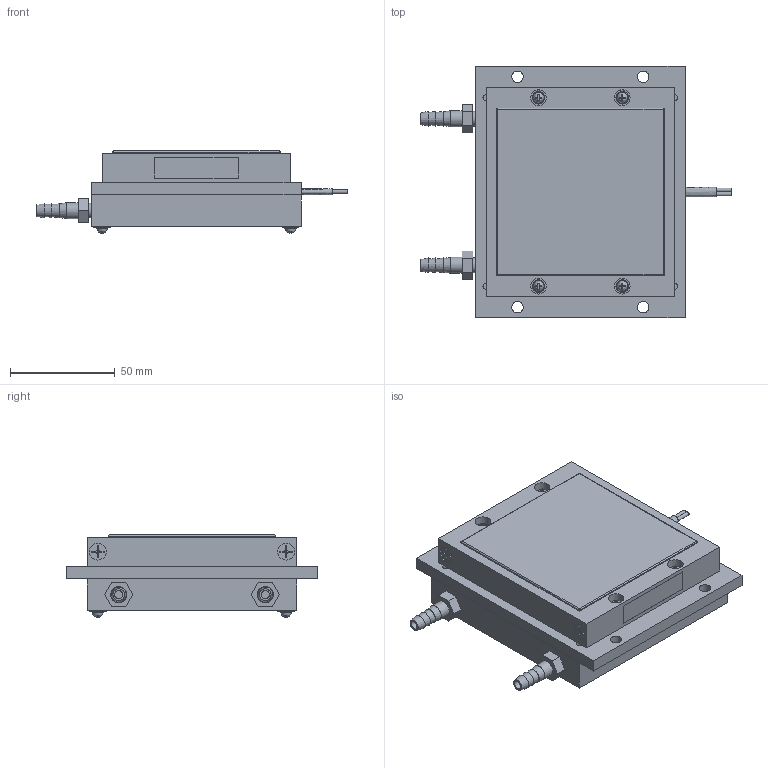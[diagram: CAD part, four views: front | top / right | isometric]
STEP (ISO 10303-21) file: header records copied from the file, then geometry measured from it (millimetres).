
FILE_DESCRIPTION(('STEP AP214'),'1');
FILE_NAME('HMC-12W-0100.stp','2026-03-16T23:42:06',(' '),(' '),'Spatial InterOp 3D',' ',' ');
FILE_SCHEMA(('AUTOMOTIVE_DESIGN { 1 0 10303 214 1 1 1 1 }'));
Length unit declared in the file: metre
Products named in the file (13): HMC-12W-0100; 水路板; ベース板; 樹脂枠; 冷却板; ホースニップル; 皿ネジ; ペルチェリード線; ネジ; 隙間うめ; M3ネジ; M3ネジ(脚); 製造番号シール_10×40(12W-0100)
Assembly tree (12 placements, depth 2):
  HMC-12W-0100
    水路板
    ベース板
    樹脂枠
    冷却板
    ホースニップル
    皿ネジ
    ペルチェリード線
    ネジ
    隙間うめ
    M3ネジ
    M3ネジ(脚)
    製造番号シール_10×40(12W-0100)
Bounding box: 148.85 x 120 x 39.2 mm (x, y, z)
Volume: 353936.7 mm3; surface area: 99384.7 mm2
Topology: 32 solids, 34 shells, 533 faces, 1423 edges, 825 vertices
Faces by surface type: plane 417, cylinder 95, bspline 12, cone 8, extrusion 1
Full cylindrical faces by diameter (mm): 1.8 x2, 1.85 x2, 3 x8, 3.5 x4, 3.81 x2, 4 x2, 5.5 x16, 6 x8, 7 x8, 7.5 x8, 7.61 x2, 8 x12
Entity records: 20115 total; most frequent: CARTESIAN_POINT 3817, DIRECTION 2291, ORIENTED_EDGE 2192, EDGE_CURVE 1098, AXIS2_PLACEMENT_3D 802, VERTEX_POINT 786, EDGE_LOOP 718, VECTOR 687
